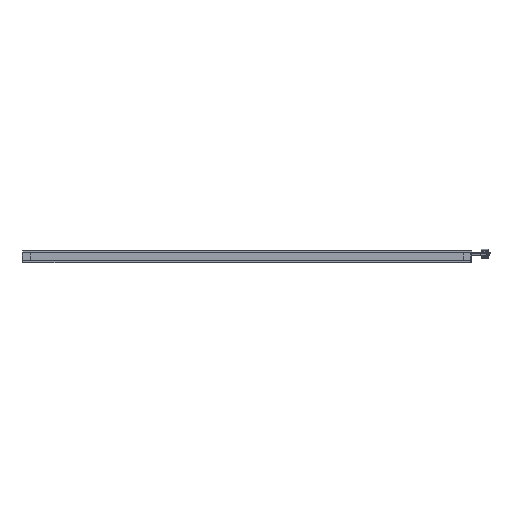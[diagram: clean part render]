
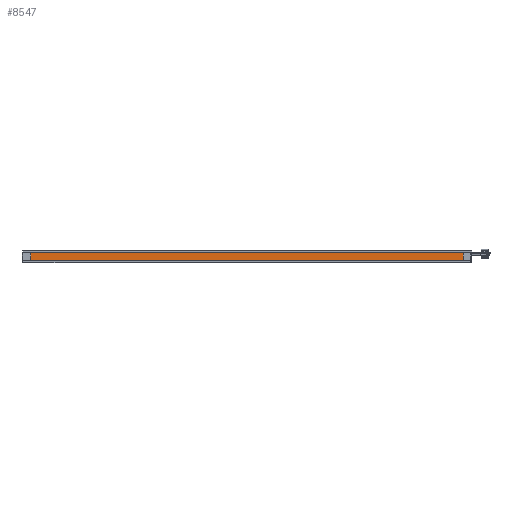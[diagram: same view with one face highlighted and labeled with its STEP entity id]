
A CAD part, front view. The second image highlights one B-rep face of the part: STEP entity #8547.
In plain terms, the highlighted planar face has unit normal (0, -1, 0).
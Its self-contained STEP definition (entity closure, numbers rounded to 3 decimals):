
#39 = CARTESIAN_POINT ( 'NONE',  ( -230.7, -315., -8.5 ) ) ;
#94 = ORIENTED_EDGE ( 'NONE', *, *, #7236, .F. ) ;
#258 = VECTOR ( 'NONE', #8187, 1000. ) ;
#1309 = DIRECTION ( 'NONE',  ( 0., 1., 0. ) ) ;
#2074 = DIRECTION ( 'NONE',  ( 0., 0., -1. ) ) ;
#2429 = VECTOR ( 'NONE', #6018, 1000. ) ;
#2465 = CARTESIAN_POINT ( 'NONE',  ( 230.7, -315., 0. ) ) ;
#2762 = EDGE_LOOP ( 'NONE', ( #5461, #94, #5930, #3935 ) ) ;
#2856 = LINE ( 'NONE', #3824, #8355 ) ;
#3217 = VERTEX_POINT ( 'NONE', #2465 ) ;
#3805 = VECTOR ( 'NONE', #7054, 1000. ) ;
#3824 = CARTESIAN_POINT ( 'NONE',  ( -230.7, -315., 0. ) ) ;
#3935 = ORIENTED_EDGE ( 'NONE', *, *, #8630, .T. ) ;
#4257 = EDGE_CURVE ( 'NONE', #4741, #7790, #6260, .T. ) ;
#4275 = LINE ( 'NONE', #8441, #3805 ) ;
#4308 = PLANE ( 'NONE',  #7837 ) ;
#4365 = CARTESIAN_POINT ( 'NONE',  ( -230.7, -315., 0. ) ) ;
#4530 = CARTESIAN_POINT ( 'NONE',  ( -230.7, -315., 0. ) ) ;
#4690 = LINE ( 'NONE', #39, #258 ) ;
#4741 = VERTEX_POINT ( 'NONE', #8017 ) ;
#5005 = EDGE_CURVE ( 'NONE', #7518, #3217, #4275, .T. ) ;
#5461 = ORIENTED_EDGE ( 'NONE', *, *, #5005, .T. ) ;
#5930 = ORIENTED_EDGE ( 'NONE', *, *, #4257, .F. ) ;
#6018 = DIRECTION ( 'NONE',  ( 0., 0., 1. ) ) ;
#6260 = LINE ( 'NONE', #4530, #2429 ) ;
#6802 = FACE_OUTER_BOUND ( 'NONE', #2762, .T. ) ;
#6826 = DIRECTION ( 'NONE',  ( 1., 0., 0. ) ) ;
#6911 = CARTESIAN_POINT ( 'NONE',  ( -230.7, -315., 0. ) ) ;
#7054 = DIRECTION ( 'NONE',  ( 0., 0., 1. ) ) ;
#7236 = EDGE_CURVE ( 'NONE', #7790, #3217, #2856, .T. ) ;
#7518 = VERTEX_POINT ( 'NONE', #9490 ) ;
#7790 = VERTEX_POINT ( 'NONE', #6911 ) ;
#7837 = AXIS2_PLACEMENT_3D ( 'NONE', #4365, #1309, #2074 ) ;
#8017 = CARTESIAN_POINT ( 'NONE',  ( -230.7, -315., -8.5 ) ) ;
#8187 = DIRECTION ( 'NONE',  ( 1., 0., 0. ) ) ;
#8355 = VECTOR ( 'NONE', #6826, 1000. ) ;
#8441 = CARTESIAN_POINT ( 'NONE',  ( 230.7, -315., 0. ) ) ;
#8547 = ADVANCED_FACE ( 'NONE', ( #6802 ), #4308, .F. ) ;
#8630 = EDGE_CURVE ( 'NONE', #4741, #7518, #4690, .T. ) ;
#9490 = CARTESIAN_POINT ( 'NONE',  ( 230.7, -315., -8.5 ) ) ;
